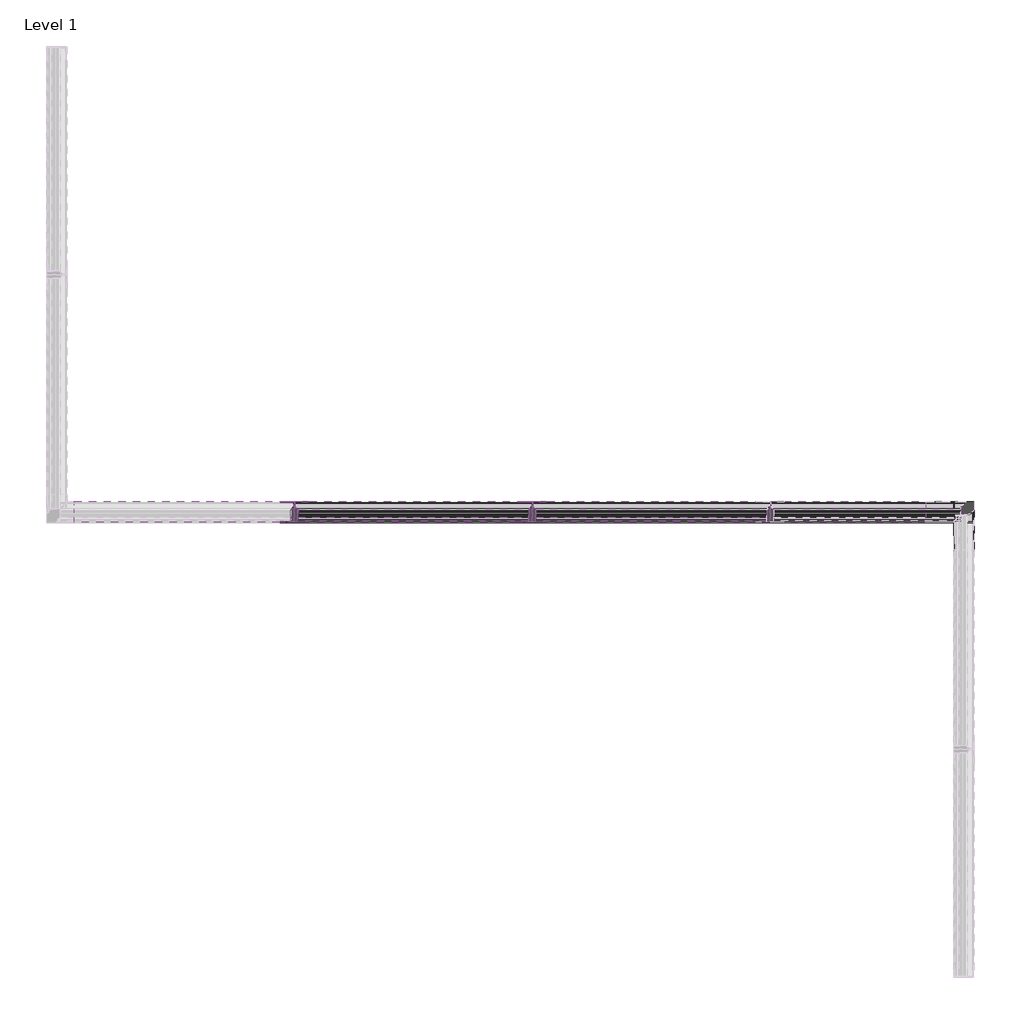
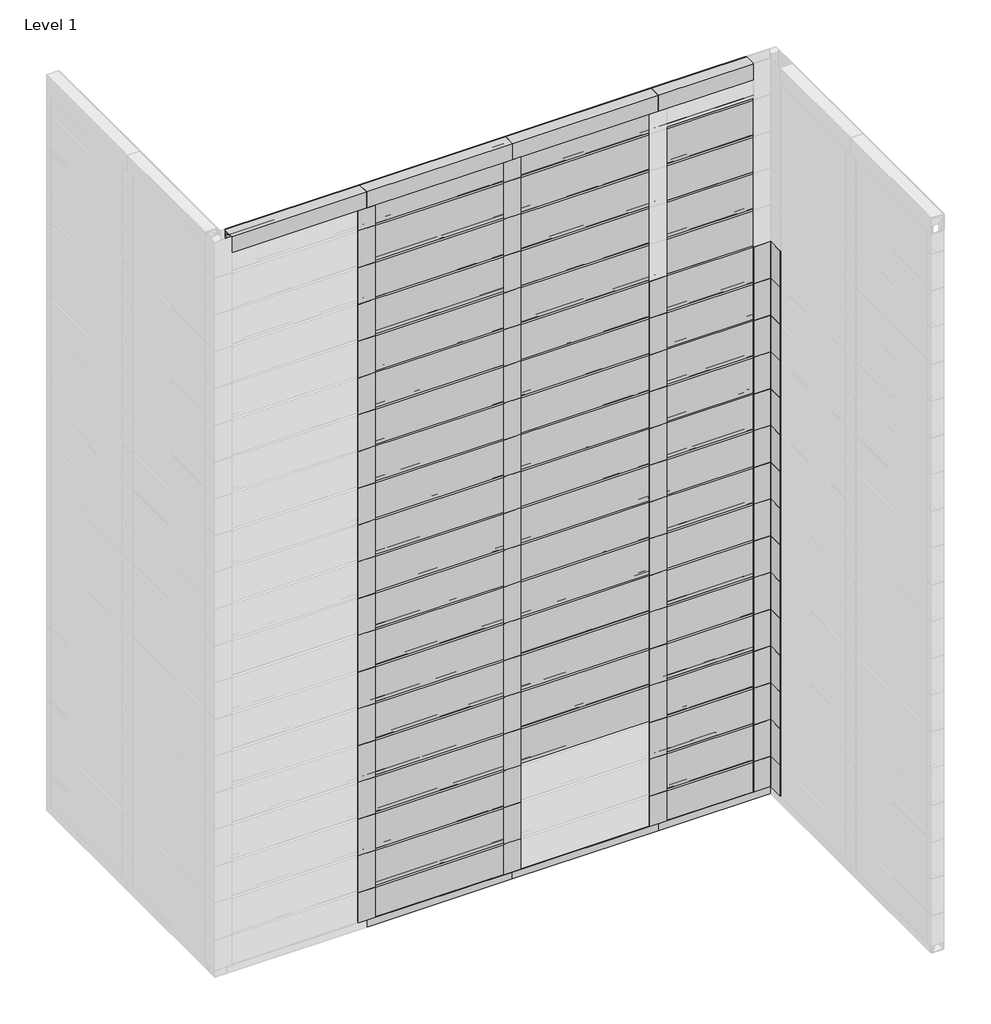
# One storey, part 2 of 6: 77 members, 56 plates.
"""IFC4 building model written with IfcOpenShell, lengths in millimetres."""

from ifc_helpers import new_model, si_unit, origin, place, context, project, spatial, transform, mapped, element, save
from components import rectangular_mullion_fastplank_2_piece_j_trim_top_9bf006b1, rectangular_mullion_fastplank_2_piece_j_trim_top_99cfb705, rectangular_mullion_fastplank_2_piece_j_trim_top_4e6e8a7a, rectangular_mullion_fastplank_2_piece_vertical_trim_b75c35a9, rectangular_mullion_fastplank_2_piece_vertical_trim_79bc82f4, rectangular_mullion_fastplank_2_piece_vertical_trim_40761718, rectangular_mullion_fastplank_inner_corner_trim_left_b16e904a, rectangular_mullion_fastplank_inner_corner_trim_left_bd85acba, rectangular_mullion_fastplank_perforated_starter_j_trim_cb19bc37, rectangular_mullion_fastplank_perforated_starter_j_trim_e011ec98, plate_624bdc6f, plate_c9c5d80b, plate_11fa783c

model = new_model("IFC4")

# Units and contexts
model_context = context("Model", 3, world=origin())
ifc_project = project(units=[si_unit("LENGTHUNIT", "METRE", prefix="MILLI")], contexts=[model_context])

# Site, building, storey
site = spatial("IfcSite", under=ifc_project)
building = spatial("IfcBuilding", under=site)
storey = spatial("IfcBuildingStorey", under=building, Name="Level 1", Elevation=0.0)

# Members
placement = place(None, origin())
rectangular_mullion_fastplank_2_piece_j_trim_top_shape = rectangular_mullion_fastplank_2_piece_j_trim_top_9bf006b1(model_context)
element("IfcMember", 1, ObjectType="Rectangular Mullion : FastPlank_2-Piece-J-Trim-Top", at=placement, inside=storey, context=model_context, shape_type="MappedRepresentation", body=[
    mapped(rectangular_mullion_fastplank_2_piece_j_trim_top_shape, transform((-1623.085698, 1944.9134647, 2032.0), x_axis=(0.0, 0.0, 1.0), y_axis=(0.0, -1.0, 0.0), z_axis=(1.0, 0.0, 0.0))),
])
rectangular_mullion_fastplank_2_piece_j_trim_top_2_shape = rectangular_mullion_fastplank_2_piece_j_trim_top_99cfb705(model_context)
element("IfcMember", 2, ObjectType="Rectangular Mullion : FastPlank_2-Piece-J-Trim-Top", at=placement, inside=storey, context=model_context, shape_type="MappedRepresentation", body=[
    mapped(rectangular_mullion_fastplank_2_piece_j_trim_top_2_shape, transform((-611.6649024, 1944.9134647, 2032.0), x_axis=(0.0, 0.0, 1.0), y_axis=(0.0, -1.0, 0.0), z_axis=(1.0, 0.0, 0.0))),
])
rectangular_mullion_fastplank_2_piece_j_trim_top_3_shape = rectangular_mullion_fastplank_2_piece_j_trim_top_4e6e8a7a(model_context)
element("IfcMember", 3, ObjectType="Rectangular Mullion : FastPlank_2-Piece-J-Trim-Top", at=placement, inside=storey, context=model_context, shape_type="MappedRepresentation", body=[
    mapped(rectangular_mullion_fastplank_2_piece_j_trim_top_3_shape, transform((-861.085698, 1944.9134647, 2032.0), x_axis=(0.0, 0.0, 1.0), y_axis=(0.0, -1.0, 0.0), z_axis=(1.0, 0.0, 0.0))),
])
element("IfcMember", 4, ObjectType="Rectangular Mullion : FastPlank_2-Piece-J-Trim-Top", at=placement, inside=storey, context=model_context, shape_type="MappedRepresentation", body=[
    mapped(rectangular_mullion_fastplank_2_piece_j_trim_top_3_shape, transform((-1242.085698, 1944.9134647, 2032.0), x_axis=(0.0, 0.0, 1.0), y_axis=(0.0, -1.0, 0.0), z_axis=(1.0, 0.0, 0.0))),
])
rectangular_mullion_fastplank_2_piece_vertical_trim_shape = rectangular_mullion_fastplank_2_piece_vertical_trim_b75c35a9(model_context)
element("IfcMember", 5, ObjectType="Rectangular Mullion : FastPlank_2-Piece-Vertical-Trim", at=placement, inside=storey, context=model_context, shape_type="MappedRepresentation", body=[
    mapped(rectangular_mullion_fastplank_2_piece_vertical_trim_shape, transform((-861.085698, 1944.9134647, 102.9000189), x_axis=(1.0, 0.0, 0.0), y_axis=(0.0, -1.0, 0.0), z_axis=(0.0, 0.0, -1.0))),
])
element("IfcMember", 6, ObjectType="Rectangular Mullion : FastPlank_2-Piece-Vertical-Trim", at=placement, inside=storey, context=model_context, shape_type="MappedRepresentation", body=[
    mapped(rectangular_mullion_fastplank_2_piece_vertical_trim_shape, transform((-861.085698, 1944.9134647, 204.5000189), x_axis=(1.0, 0.0, 0.0), y_axis=(0.0, -1.0, 0.0), z_axis=(0.0, 0.0, -1.0))),
])
element("IfcMember", 7, ObjectType="Rectangular Mullion : FastPlank_2-Piece-Vertical-Trim", at=placement, inside=storey, context=model_context, shape_type="MappedRepresentation", body=[
    mapped(rectangular_mullion_fastplank_2_piece_vertical_trim_shape, transform((-861.085698, 1944.9134647, 306.1000189), x_axis=(1.0, 0.0, 0.0), y_axis=(0.0, -1.0, 0.0), z_axis=(0.0, 0.0, -1.0))),
])
element("IfcMember", 8, ObjectType="Rectangular Mullion : FastPlank_2-Piece-Vertical-Trim", at=placement, inside=storey, context=model_context, shape_type="MappedRepresentation", body=[
    mapped(rectangular_mullion_fastplank_2_piece_vertical_trim_shape, transform((-861.085698, 1944.9134647, 407.7000189), x_axis=(1.0, 0.0, 0.0), y_axis=(0.0, -1.0, 0.0), z_axis=(0.0, 0.0, -1.0))),
])
element("IfcMember", 9, ObjectType="Rectangular Mullion : FastPlank_2-Piece-Vertical-Trim", at=placement, inside=storey, context=model_context, shape_type="MappedRepresentation", body=[
    mapped(rectangular_mullion_fastplank_2_piece_vertical_trim_shape, transform((-861.085698, 1944.9134647, 509.3000189), x_axis=(1.0, 0.0, 0.0), y_axis=(0.0, -1.0, 0.0), z_axis=(0.0, 0.0, -1.0))),
])
element("IfcMember", 10, ObjectType="Rectangular Mullion : FastPlank_2-Piece-Vertical-Trim", at=placement, inside=storey, context=model_context, shape_type="MappedRepresentation", body=[
    mapped(rectangular_mullion_fastplank_2_piece_vertical_trim_shape, transform((-861.085698, 1944.9134647, 610.9000189), x_axis=(1.0, 0.0, 0.0), y_axis=(0.0, -1.0, 0.0), z_axis=(0.0, 0.0, -1.0))),
])
element("IfcMember", 11, ObjectType="Rectangular Mullion : FastPlank_2-Piece-Vertical-Trim", at=placement, inside=storey, context=model_context, shape_type="MappedRepresentation", body=[
    mapped(rectangular_mullion_fastplank_2_piece_vertical_trim_shape, transform((-861.085698, 1944.9134647, 712.5000189), x_axis=(1.0, 0.0, 0.0), y_axis=(0.0, -1.0, 0.0), z_axis=(0.0, 0.0, -1.0))),
])
element("IfcMember", 12, ObjectType="Rectangular Mullion : FastPlank_2-Piece-Vertical-Trim", at=placement, inside=storey, context=model_context, shape_type="MappedRepresentation", body=[
    mapped(rectangular_mullion_fastplank_2_piece_vertical_trim_shape, transform((-861.085698, 1944.9134647, 814.1000189), x_axis=(1.0, 0.0, 0.0), y_axis=(0.0, -1.0, 0.0), z_axis=(0.0, 0.0, -1.0))),
])
element("IfcMember", 13, ObjectType="Rectangular Mullion : FastPlank_2-Piece-Vertical-Trim", at=placement, inside=storey, context=model_context, shape_type="MappedRepresentation", body=[
    mapped(rectangular_mullion_fastplank_2_piece_vertical_trim_shape, transform((-861.085698, 1944.9134647, 915.7000189), x_axis=(1.0, 0.0, 0.0), y_axis=(0.0, -1.0, 0.0), z_axis=(0.0, 0.0, -1.0))),
])
element("IfcMember", 14, ObjectType="Rectangular Mullion : FastPlank_2-Piece-Vertical-Trim", at=placement, inside=storey, context=model_context, shape_type="MappedRepresentation", body=[
    mapped(rectangular_mullion_fastplank_2_piece_vertical_trim_shape, transform((-861.085698, 1944.9134647, 1017.3000189), x_axis=(1.0, 0.0, 0.0), y_axis=(0.0, -1.0, 0.0), z_axis=(0.0, 0.0, -1.0))),
])
element("IfcMember", 15, ObjectType="Rectangular Mullion : FastPlank_2-Piece-Vertical-Trim", at=placement, inside=storey, context=model_context, shape_type="MappedRepresentation", body=[
    mapped(rectangular_mullion_fastplank_2_piece_vertical_trim_shape, transform((-861.085698, 1944.9134647, 1118.9000189), x_axis=(1.0, 0.0, 0.0), y_axis=(0.0, -1.0, 0.0), z_axis=(0.0, 0.0, -1.0))),
])
element("IfcMember", 16, ObjectType="Rectangular Mullion : FastPlank_2-Piece-Vertical-Trim", at=placement, inside=storey, context=model_context, shape_type="MappedRepresentation", body=[
    mapped(rectangular_mullion_fastplank_2_piece_vertical_trim_shape, transform((-861.085698, 1944.9134647, 1220.5000189), x_axis=(1.0, 0.0, 0.0), y_axis=(0.0, -1.0, 0.0), z_axis=(0.0, 0.0, -1.0))),
])
element("IfcMember", 17, ObjectType="Rectangular Mullion : FastPlank_2-Piece-Vertical-Trim", at=placement, inside=storey, context=model_context, shape_type="MappedRepresentation", body=[
    mapped(rectangular_mullion_fastplank_2_piece_vertical_trim_shape, transform((-861.085698, 1944.9134647, 1322.1000189), x_axis=(1.0, 0.0, 0.0), y_axis=(0.0, -1.0, 0.0), z_axis=(0.0, 0.0, -1.0))),
])
element("IfcMember", 18, ObjectType="Rectangular Mullion : FastPlank_2-Piece-Vertical-Trim", at=placement, inside=storey, context=model_context, shape_type="MappedRepresentation", body=[
    mapped(rectangular_mullion_fastplank_2_piece_vertical_trim_shape, transform((-861.085698, 1944.9134647, 1423.7000189), x_axis=(1.0, 0.0, 0.0), y_axis=(0.0, -1.0, 0.0), z_axis=(0.0, 0.0, -1.0))),
])
element("IfcMember", 19, ObjectType="Rectangular Mullion : FastPlank_2-Piece-Vertical-Trim", at=placement, inside=storey, context=model_context, shape_type="MappedRepresentation", body=[
    mapped(rectangular_mullion_fastplank_2_piece_vertical_trim_shape, transform((-1242.085698, 1944.9134647, 102.9000189), x_axis=(1.0, 0.0, 0.0), y_axis=(0.0, -1.0, 0.0), z_axis=(0.0, 0.0, -1.0))),
])
element("IfcMember", 20, ObjectType="Rectangular Mullion : FastPlank_2-Piece-Vertical-Trim", at=placement, inside=storey, context=model_context, shape_type="MappedRepresentation", body=[
    mapped(rectangular_mullion_fastplank_2_piece_vertical_trim_shape, transform((-1242.085698, 1944.9134647, 204.5000189), x_axis=(1.0, 0.0, 0.0), y_axis=(0.0, -1.0, 0.0), z_axis=(0.0, 0.0, -1.0))),
])
element("IfcMember", 21, ObjectType="Rectangular Mullion : FastPlank_2-Piece-Vertical-Trim", at=placement, inside=storey, context=model_context, shape_type="MappedRepresentation", body=[
    mapped(rectangular_mullion_fastplank_2_piece_vertical_trim_shape, transform((-1242.085698, 1944.9134647, 306.1000189), x_axis=(1.0, 0.0, 0.0), y_axis=(0.0, -1.0, 0.0), z_axis=(0.0, 0.0, -1.0))),
])
element("IfcMember", 22, ObjectType="Rectangular Mullion : FastPlank_2-Piece-Vertical-Trim", at=placement, inside=storey, context=model_context, shape_type="MappedRepresentation", body=[
    mapped(rectangular_mullion_fastplank_2_piece_vertical_trim_shape, transform((-1242.085698, 1944.9134647, 407.7000189), x_axis=(1.0, 0.0, 0.0), y_axis=(0.0, -1.0, 0.0), z_axis=(0.0, 0.0, -1.0))),
])
element("IfcMember", 23, ObjectType="Rectangular Mullion : FastPlank_2-Piece-Vertical-Trim", at=placement, inside=storey, context=model_context, shape_type="MappedRepresentation", body=[
    mapped(rectangular_mullion_fastplank_2_piece_vertical_trim_shape, transform((-1242.085698, 1944.9134647, 509.3000189), x_axis=(1.0, 0.0, 0.0), y_axis=(0.0, -1.0, 0.0), z_axis=(0.0, 0.0, -1.0))),
])
element("IfcMember", 24, ObjectType="Rectangular Mullion : FastPlank_2-Piece-Vertical-Trim", at=placement, inside=storey, context=model_context, shape_type="MappedRepresentation", body=[
    mapped(rectangular_mullion_fastplank_2_piece_vertical_trim_shape, transform((-1242.085698, 1944.9134647, 610.9000189), x_axis=(1.0, 0.0, 0.0), y_axis=(0.0, -1.0, 0.0), z_axis=(0.0, 0.0, -1.0))),
])
element("IfcMember", 25, ObjectType="Rectangular Mullion : FastPlank_2-Piece-Vertical-Trim", at=placement, inside=storey, context=model_context, shape_type="MappedRepresentation", body=[
    mapped(rectangular_mullion_fastplank_2_piece_vertical_trim_shape, transform((-1242.085698, 1944.9134647, 712.5000189), x_axis=(1.0, 0.0, 0.0), y_axis=(0.0, -1.0, 0.0), z_axis=(0.0, 0.0, -1.0))),
])
element("IfcMember", 26, ObjectType="Rectangular Mullion : FastPlank_2-Piece-Vertical-Trim", at=placement, inside=storey, context=model_context, shape_type="MappedRepresentation", body=[
    mapped(rectangular_mullion_fastplank_2_piece_vertical_trim_shape, transform((-1242.085698, 1944.9134647, 814.1000189), x_axis=(1.0, 0.0, 0.0), y_axis=(0.0, -1.0, 0.0), z_axis=(0.0, 0.0, -1.0))),
])
element("IfcMember", 27, ObjectType="Rectangular Mullion : FastPlank_2-Piece-Vertical-Trim", at=placement, inside=storey, context=model_context, shape_type="MappedRepresentation", body=[
    mapped(rectangular_mullion_fastplank_2_piece_vertical_trim_shape, transform((-1242.085698, 1944.9134647, 915.7000189), x_axis=(1.0, 0.0, 0.0), y_axis=(0.0, -1.0, 0.0), z_axis=(0.0, 0.0, -1.0))),
])
element("IfcMember", 28, ObjectType="Rectangular Mullion : FastPlank_2-Piece-Vertical-Trim", at=placement, inside=storey, context=model_context, shape_type="MappedRepresentation", body=[
    mapped(rectangular_mullion_fastplank_2_piece_vertical_trim_shape, transform((-1242.085698, 1944.9134647, 1017.3000189), x_axis=(1.0, 0.0, 0.0), y_axis=(0.0, -1.0, 0.0), z_axis=(0.0, 0.0, -1.0))),
])
element("IfcMember", 29, ObjectType="Rectangular Mullion : FastPlank_2-Piece-Vertical-Trim", at=placement, inside=storey, context=model_context, shape_type="MappedRepresentation", body=[
    mapped(rectangular_mullion_fastplank_2_piece_vertical_trim_shape, transform((-1242.085698, 1944.9134647, 1118.9000189), x_axis=(1.0, 0.0, 0.0), y_axis=(0.0, -1.0, 0.0), z_axis=(0.0, 0.0, -1.0))),
])
element("IfcMember", 30, ObjectType="Rectangular Mullion : FastPlank_2-Piece-Vertical-Trim", at=placement, inside=storey, context=model_context, shape_type="MappedRepresentation", body=[
    mapped(rectangular_mullion_fastplank_2_piece_vertical_trim_shape, transform((-1242.085698, 1944.9134647, 1220.5000189), x_axis=(1.0, 0.0, 0.0), y_axis=(0.0, -1.0, 0.0), z_axis=(0.0, 0.0, -1.0))),
])
element("IfcMember", 31, ObjectType="Rectangular Mullion : FastPlank_2-Piece-Vertical-Trim", at=placement, inside=storey, context=model_context, shape_type="MappedRepresentation", body=[
    mapped(rectangular_mullion_fastplank_2_piece_vertical_trim_shape, transform((-1242.085698, 1944.9134647, 1322.1000189), x_axis=(1.0, 0.0, 0.0), y_axis=(0.0, -1.0, 0.0), z_axis=(0.0, 0.0, -1.0))),
])
element("IfcMember", 32, ObjectType="Rectangular Mullion : FastPlank_2-Piece-Vertical-Trim", at=placement, inside=storey, context=model_context, shape_type="MappedRepresentation", body=[
    mapped(rectangular_mullion_fastplank_2_piece_vertical_trim_shape, transform((-1242.085698, 1944.9134647, 1423.7000189), x_axis=(1.0, 0.0, 0.0), y_axis=(0.0, -1.0, 0.0), z_axis=(0.0, 0.0, -1.0))),
])
element("IfcMember", 33, ObjectType="Rectangular Mullion : FastPlank_2-Piece-Vertical-Trim", at=placement, inside=storey, context=model_context, shape_type="MappedRepresentation", body=[
    mapped(rectangular_mullion_fastplank_2_piece_vertical_trim_shape, transform((-1242.085698, 1944.9134647, 1525.3000189), x_axis=(1.0, 0.0, 0.0), y_axis=(0.0, -1.0, 0.0), z_axis=(0.0, 0.0, -1.0))),
])
element("IfcMember", 34, ObjectType="Rectangular Mullion : FastPlank_2-Piece-Vertical-Trim", at=placement, inside=storey, context=model_context, shape_type="MappedRepresentation", body=[
    mapped(rectangular_mullion_fastplank_2_piece_vertical_trim_shape, transform((-1242.085698, 1944.9134647, 1626.9000189), x_axis=(1.0, 0.0, 0.0), y_axis=(0.0, -1.0, 0.0), z_axis=(0.0, 0.0, -1.0))),
])
element("IfcMember", 35, ObjectType="Rectangular Mullion : FastPlank_2-Piece-Vertical-Trim", at=placement, inside=storey, context=model_context, shape_type="MappedRepresentation", body=[
    mapped(rectangular_mullion_fastplank_2_piece_vertical_trim_shape, transform((-1242.085698, 1944.9134647, 1728.5000189), x_axis=(1.0, 0.0, 0.0), y_axis=(0.0, -1.0, 0.0), z_axis=(0.0, 0.0, -1.0))),
])
element("IfcMember", 36, ObjectType="Rectangular Mullion : FastPlank_2-Piece-Vertical-Trim", at=placement, inside=storey, context=model_context, shape_type="MappedRepresentation", body=[
    mapped(rectangular_mullion_fastplank_2_piece_vertical_trim_shape, transform((-1242.085698, 1944.9134647, 1830.1000189), x_axis=(1.0, 0.0, 0.0), y_axis=(0.0, -1.0, 0.0), z_axis=(0.0, 0.0, -1.0))),
])
element("IfcMember", 37, ObjectType="Rectangular Mullion : FastPlank_2-Piece-Vertical-Trim", at=placement, inside=storey, context=model_context, shape_type="MappedRepresentation", body=[
    mapped(rectangular_mullion_fastplank_2_piece_vertical_trim_shape, transform((-1623.085698, 1944.9134647, 102.9000189), x_axis=(1.0, 0.0, 0.0), y_axis=(0.0, -1.0, 0.0), z_axis=(0.0, 0.0, -1.0))),
])
element("IfcMember", 38, ObjectType="Rectangular Mullion : FastPlank_2-Piece-Vertical-Trim", at=placement, inside=storey, context=model_context, shape_type="MappedRepresentation", body=[
    mapped(rectangular_mullion_fastplank_2_piece_vertical_trim_shape, transform((-1623.085698, 1944.9134647, 204.5000189), x_axis=(1.0, 0.0, 0.0), y_axis=(0.0, -1.0, 0.0), z_axis=(0.0, 0.0, -1.0))),
])
element("IfcMember", 39, ObjectType="Rectangular Mullion : FastPlank_2-Piece-Vertical-Trim", at=placement, inside=storey, context=model_context, shape_type="MappedRepresentation", body=[
    mapped(rectangular_mullion_fastplank_2_piece_vertical_trim_shape, transform((-1623.085698, 1944.9134647, 306.1000189), x_axis=(1.0, 0.0, 0.0), y_axis=(0.0, -1.0, 0.0), z_axis=(0.0, 0.0, -1.0))),
])
element("IfcMember", 40, ObjectType="Rectangular Mullion : FastPlank_2-Piece-Vertical-Trim", at=placement, inside=storey, context=model_context, shape_type="MappedRepresentation", body=[
    mapped(rectangular_mullion_fastplank_2_piece_vertical_trim_shape, transform((-1623.085698, 1944.9134647, 407.7000189), x_axis=(1.0, 0.0, 0.0), y_axis=(0.0, -1.0, 0.0), z_axis=(0.0, 0.0, -1.0))),
])
element("IfcMember", 41, ObjectType="Rectangular Mullion : FastPlank_2-Piece-Vertical-Trim", at=placement, inside=storey, context=model_context, shape_type="MappedRepresentation", body=[
    mapped(rectangular_mullion_fastplank_2_piece_vertical_trim_shape, transform((-1623.085698, 1944.9134647, 509.3000189), x_axis=(1.0, 0.0, 0.0), y_axis=(0.0, -1.0, 0.0), z_axis=(0.0, 0.0, -1.0))),
])
element("IfcMember", 42, ObjectType="Rectangular Mullion : FastPlank_2-Piece-Vertical-Trim", at=placement, inside=storey, context=model_context, shape_type="MappedRepresentation", body=[
    mapped(rectangular_mullion_fastplank_2_piece_vertical_trim_shape, transform((-1623.085698, 1944.9134647, 610.9000189), x_axis=(1.0, 0.0, 0.0), y_axis=(0.0, -1.0, 0.0), z_axis=(0.0, 0.0, -1.0))),
])
element("IfcMember", 43, ObjectType="Rectangular Mullion : FastPlank_2-Piece-Vertical-Trim", at=placement, inside=storey, context=model_context, shape_type="MappedRepresentation", body=[
    mapped(rectangular_mullion_fastplank_2_piece_vertical_trim_shape, transform((-1623.085698, 1944.9134647, 712.5000189), x_axis=(1.0, 0.0, 0.0), y_axis=(0.0, -1.0, 0.0), z_axis=(0.0, 0.0, -1.0))),
])
element("IfcMember", 44, ObjectType="Rectangular Mullion : FastPlank_2-Piece-Vertical-Trim", at=placement, inside=storey, context=model_context, shape_type="MappedRepresentation", body=[
    mapped(rectangular_mullion_fastplank_2_piece_vertical_trim_shape, transform((-1623.085698, 1944.9134647, 814.1000189), x_axis=(1.0, 0.0, 0.0), y_axis=(0.0, -1.0, 0.0), z_axis=(0.0, 0.0, -1.0))),
])
element("IfcMember", 45, ObjectType="Rectangular Mullion : FastPlank_2-Piece-Vertical-Trim", at=placement, inside=storey, context=model_context, shape_type="MappedRepresentation", body=[
    mapped(rectangular_mullion_fastplank_2_piece_vertical_trim_shape, transform((-1623.085698, 1944.9134647, 915.7000189), x_axis=(1.0, 0.0, 0.0), y_axis=(0.0, -1.0, 0.0), z_axis=(0.0, 0.0, -1.0))),
])
element("IfcMember", 46, ObjectType="Rectangular Mullion : FastPlank_2-Piece-Vertical-Trim", at=placement, inside=storey, context=model_context, shape_type="MappedRepresentation", body=[
    mapped(rectangular_mullion_fastplank_2_piece_vertical_trim_shape, transform((-1623.085698, 1944.9134647, 1017.3000189), x_axis=(1.0, 0.0, 0.0), y_axis=(0.0, -1.0, 0.0), z_axis=(0.0, 0.0, -1.0))),
])
element("IfcMember", 47, ObjectType="Rectangular Mullion : FastPlank_2-Piece-Vertical-Trim", at=placement, inside=storey, context=model_context, shape_type="MappedRepresentation", body=[
    mapped(rectangular_mullion_fastplank_2_piece_vertical_trim_shape, transform((-1623.085698, 1944.9134647, 1118.9000189), x_axis=(1.0, 0.0, 0.0), y_axis=(0.0, -1.0, 0.0), z_axis=(0.0, 0.0, -1.0))),
])
element("IfcMember", 48, ObjectType="Rectangular Mullion : FastPlank_2-Piece-Vertical-Trim", at=placement, inside=storey, context=model_context, shape_type="MappedRepresentation", body=[
    mapped(rectangular_mullion_fastplank_2_piece_vertical_trim_shape, transform((-1623.085698, 1944.9134647, 1220.5000189), x_axis=(1.0, 0.0, 0.0), y_axis=(0.0, -1.0, 0.0), z_axis=(0.0, 0.0, -1.0))),
])
element("IfcMember", 49, ObjectType="Rectangular Mullion : FastPlank_2-Piece-Vertical-Trim", at=placement, inside=storey, context=model_context, shape_type="MappedRepresentation", body=[
    mapped(rectangular_mullion_fastplank_2_piece_vertical_trim_shape, transform((-1623.085698, 1944.9134647, 1322.1000189), x_axis=(1.0, 0.0, 0.0), y_axis=(0.0, -1.0, 0.0), z_axis=(0.0, 0.0, -1.0))),
])
element("IfcMember", 50, ObjectType="Rectangular Mullion : FastPlank_2-Piece-Vertical-Trim", at=placement, inside=storey, context=model_context, shape_type="MappedRepresentation", body=[
    mapped(rectangular_mullion_fastplank_2_piece_vertical_trim_shape, transform((-1623.085698, 1944.9134647, 1423.7000189), x_axis=(1.0, 0.0, 0.0), y_axis=(0.0, -1.0, 0.0), z_axis=(0.0, 0.0, -1.0))),
])
element("IfcMember", 51, ObjectType="Rectangular Mullion : FastPlank_2-Piece-Vertical-Trim", at=placement, inside=storey, context=model_context, shape_type="MappedRepresentation", body=[
    mapped(rectangular_mullion_fastplank_2_piece_vertical_trim_shape, transform((-1623.085698, 1944.9134647, 1525.3000189), x_axis=(1.0, 0.0, 0.0), y_axis=(0.0, -1.0, 0.0), z_axis=(0.0, 0.0, -1.0))),
])
element("IfcMember", 52, ObjectType="Rectangular Mullion : FastPlank_2-Piece-Vertical-Trim", at=placement, inside=storey, context=model_context, shape_type="MappedRepresentation", body=[
    mapped(rectangular_mullion_fastplank_2_piece_vertical_trim_shape, transform((-1623.085698, 1944.9134647, 1626.9000189), x_axis=(1.0, 0.0, 0.0), y_axis=(0.0, -1.0, 0.0), z_axis=(0.0, 0.0, -1.0))),
])
element("IfcMember", 53, ObjectType="Rectangular Mullion : FastPlank_2-Piece-Vertical-Trim", at=placement, inside=storey, context=model_context, shape_type="MappedRepresentation", body=[
    mapped(rectangular_mullion_fastplank_2_piece_vertical_trim_shape, transform((-1623.085698, 1944.9134647, 1728.5000189), x_axis=(1.0, 0.0, 0.0), y_axis=(0.0, -1.0, 0.0), z_axis=(0.0, 0.0, -1.0))),
])
element("IfcMember", 54, ObjectType="Rectangular Mullion : FastPlank_2-Piece-Vertical-Trim", at=placement, inside=storey, context=model_context, shape_type="MappedRepresentation", body=[
    mapped(rectangular_mullion_fastplank_2_piece_vertical_trim_shape, transform((-1623.085698, 1944.9134647, 1830.1000189), x_axis=(1.0, 0.0, 0.0), y_axis=(0.0, -1.0, 0.0), z_axis=(0.0, 0.0, -1.0))),
])
rectangular_mullion_fastplank_2_piece_vertical_trim_2_shape = rectangular_mullion_fastplank_2_piece_vertical_trim_79bc82f4(model_context)
element("IfcMember", 55, ObjectType="Rectangular Mullion : FastPlank_2-Piece-Vertical-Trim", at=placement, inside=storey, context=model_context, shape_type="MappedRepresentation", body=[
    mapped(rectangular_mullion_fastplank_2_piece_vertical_trim_2_shape, transform((-1242.085698, 1944.9134647, 1931.7000189), x_axis=(1.0, 0.0, 0.0), y_axis=(0.0, -1.0, 0.0), z_axis=(0.0, 0.0, -1.0))),
])
element("IfcMember", 56, ObjectType="Rectangular Mullion : FastPlank_2-Piece-Vertical-Trim", at=placement, inside=storey, context=model_context, shape_type="MappedRepresentation", body=[
    mapped(rectangular_mullion_fastplank_2_piece_vertical_trim_2_shape, transform((-1623.085698, 1944.9134647, 1931.7000189), x_axis=(1.0, 0.0, 0.0), y_axis=(0.0, -1.0, 0.0), z_axis=(0.0, 0.0, -1.0))),
])
rectangular_mullion_fastplank_2_piece_vertical_trim_3_shape = rectangular_mullion_fastplank_2_piece_vertical_trim_40761718(model_context)
element("IfcMember", 57, ObjectType="Rectangular Mullion : FastPlank_2-Piece-Vertical-Trim", at=placement, inside=storey, context=model_context, shape_type="MappedRepresentation", body=[
    mapped(rectangular_mullion_fastplank_2_piece_vertical_trim_3_shape, transform((-861.085698, 1944.9134647, 19.05), x_axis=(1.0, 0.0, 0.0), y_axis=(0.0, -1.0, 0.0), z_axis=(0.0, 0.0, -1.0))),
])
element("IfcMember", 58, ObjectType="Rectangular Mullion : FastPlank_2-Piece-Vertical-Trim", at=placement, inside=storey, context=model_context, shape_type="MappedRepresentation", body=[
    mapped(rectangular_mullion_fastplank_2_piece_vertical_trim_3_shape, transform((-1242.085698, 1944.9134647, 19.05), x_axis=(1.0, 0.0, 0.0), y_axis=(0.0, -1.0, 0.0), z_axis=(0.0, 0.0, -1.0))),
])
element("IfcMember", 59, ObjectType="Rectangular Mullion : FastPlank_2-Piece-Vertical-Trim", at=placement, inside=storey, context=model_context, shape_type="MappedRepresentation", body=[
    mapped(rectangular_mullion_fastplank_2_piece_vertical_trim_3_shape, transform((-1623.085698, 1944.9134647, 19.05), x_axis=(1.0, 0.0, 0.0), y_axis=(0.0, -1.0, 0.0), z_axis=(0.0, 0.0, -1.0))),
])
rectangular_mullion_fastplank_inner_corner_trim_left_shape = rectangular_mullion_fastplank_inner_corner_trim_left_b16e904a(model_context)
element("IfcMember", 60, ObjectType="Rectangular Mullion : FastPlank_Inner-Corner-Trim-Right", at=placement, inside=storey, context=model_context, shape_type="MappedRepresentation", body=[
    mapped(rectangular_mullion_fastplank_inner_corner_trim_left_shape, transform((-533.9650578, 1944.9134647, 102.9000189), x_axis=(1.0, 0.0, 0.0), y_axis=(0.0, -1.0, 0.0), z_axis=(0.0, 0.0, -1.0))),
])
element("IfcMember", 61, ObjectType="Rectangular Mullion : FastPlank_Inner-Corner-Trim-Right", at=placement, inside=storey, context=model_context, shape_type="MappedRepresentation", body=[
    mapped(rectangular_mullion_fastplank_inner_corner_trim_left_shape, transform((-533.9650578, 1944.9134647, 204.5000189), x_axis=(1.0, 0.0, 0.0), y_axis=(0.0, -1.0, 0.0), z_axis=(0.0, 0.0, -1.0))),
])
element("IfcMember", 62, ObjectType="Rectangular Mullion : FastPlank_Inner-Corner-Trim-Right", at=placement, inside=storey, context=model_context, shape_type="MappedRepresentation", body=[
    mapped(rectangular_mullion_fastplank_inner_corner_trim_left_shape, transform((-533.9650578, 1944.9134647, 306.1000189), x_axis=(1.0, 0.0, 0.0), y_axis=(0.0, -1.0, 0.0), z_axis=(0.0, 0.0, -1.0))),
])
element("IfcMember", 63, ObjectType="Rectangular Mullion : FastPlank_Inner-Corner-Trim-Right", at=placement, inside=storey, context=model_context, shape_type="MappedRepresentation", body=[
    mapped(rectangular_mullion_fastplank_inner_corner_trim_left_shape, transform((-533.9650578, 1944.9134647, 407.7000189), x_axis=(1.0, 0.0, 0.0), y_axis=(0.0, -1.0, 0.0), z_axis=(0.0, 0.0, -1.0))),
])
element("IfcMember", 64, ObjectType="Rectangular Mullion : FastPlank_Inner-Corner-Trim-Right", at=placement, inside=storey, context=model_context, shape_type="MappedRepresentation", body=[
    mapped(rectangular_mullion_fastplank_inner_corner_trim_left_shape, transform((-533.9650578, 1944.9134647, 509.3000189), x_axis=(1.0, 0.0, 0.0), y_axis=(0.0, -1.0, 0.0), z_axis=(0.0, 0.0, -1.0))),
])
element("IfcMember", 65, ObjectType="Rectangular Mullion : FastPlank_Inner-Corner-Trim-Right", at=placement, inside=storey, context=model_context, shape_type="MappedRepresentation", body=[
    mapped(rectangular_mullion_fastplank_inner_corner_trim_left_shape, transform((-533.9650578, 1944.9134647, 610.9000189), x_axis=(1.0, 0.0, 0.0), y_axis=(0.0, -1.0, 0.0), z_axis=(0.0, 0.0, -1.0))),
])
element("IfcMember", 66, ObjectType="Rectangular Mullion : FastPlank_Inner-Corner-Trim-Right", at=placement, inside=storey, context=model_context, shape_type="MappedRepresentation", body=[
    mapped(rectangular_mullion_fastplank_inner_corner_trim_left_shape, transform((-533.9650578, 1944.9134647, 712.5000189), x_axis=(1.0, 0.0, 0.0), y_axis=(0.0, -1.0, 0.0), z_axis=(0.0, 0.0, -1.0))),
])
element("IfcMember", 67, ObjectType="Rectangular Mullion : FastPlank_Inner-Corner-Trim-Right", at=placement, inside=storey, context=model_context, shape_type="MappedRepresentation", body=[
    mapped(rectangular_mullion_fastplank_inner_corner_trim_left_shape, transform((-533.9650578, 1944.9134647, 814.1000189), x_axis=(1.0, 0.0, 0.0), y_axis=(0.0, -1.0, 0.0), z_axis=(0.0, 0.0, -1.0))),
])
element("IfcMember", 68, ObjectType="Rectangular Mullion : FastPlank_Inner-Corner-Trim-Right", at=placement, inside=storey, context=model_context, shape_type="MappedRepresentation", body=[
    mapped(rectangular_mullion_fastplank_inner_corner_trim_left_shape, transform((-533.9650578, 1944.9134647, 915.7000189), x_axis=(1.0, 0.0, 0.0), y_axis=(0.0, -1.0, 0.0), z_axis=(0.0, 0.0, -1.0))),
])
element("IfcMember", 69, ObjectType="Rectangular Mullion : FastPlank_Inner-Corner-Trim-Right", at=placement, inside=storey, context=model_context, shape_type="MappedRepresentation", body=[
    mapped(rectangular_mullion_fastplank_inner_corner_trim_left_shape, transform((-533.9650578, 1944.9134647, 1017.3000189), x_axis=(1.0, 0.0, 0.0), y_axis=(0.0, -1.0, 0.0), z_axis=(0.0, 0.0, -1.0))),
])
element("IfcMember", 70, ObjectType="Rectangular Mullion : FastPlank_Inner-Corner-Trim-Right", at=placement, inside=storey, context=model_context, shape_type="MappedRepresentation", body=[
    mapped(rectangular_mullion_fastplank_inner_corner_trim_left_shape, transform((-533.9650578, 1944.9134647, 1118.9000189), x_axis=(1.0, 0.0, 0.0), y_axis=(0.0, -1.0, 0.0), z_axis=(0.0, 0.0, -1.0))),
])
element("IfcMember", 71, ObjectType="Rectangular Mullion : FastPlank_Inner-Corner-Trim-Right", at=placement, inside=storey, context=model_context, shape_type="MappedRepresentation", body=[
    mapped(rectangular_mullion_fastplank_inner_corner_trim_left_shape, transform((-533.9650578, 1944.9134647, 1220.5000189), x_axis=(1.0, 0.0, 0.0), y_axis=(0.0, -1.0, 0.0), z_axis=(0.0, 0.0, -1.0))),
])
element("IfcMember", 72, ObjectType="Rectangular Mullion : FastPlank_Inner-Corner-Trim-Right", at=placement, inside=storey, context=model_context, shape_type="MappedRepresentation", body=[
    mapped(rectangular_mullion_fastplank_inner_corner_trim_left_shape, transform((-533.9650578, 1944.9134647, 1322.1000189), x_axis=(1.0, 0.0, 0.0), y_axis=(0.0, -1.0, 0.0), z_axis=(0.0, 0.0, -1.0))),
])
element("IfcMember", 73, ObjectType="Rectangular Mullion : FastPlank_Inner-Corner-Trim-Right", at=placement, inside=storey, context=model_context, shape_type="MappedRepresentation", body=[
    mapped(rectangular_mullion_fastplank_inner_corner_trim_left_shape, transform((-533.9650578, 1944.9134647, 1423.7000189), x_axis=(1.0, 0.0, 0.0), y_axis=(0.0, -1.0, 0.0), z_axis=(0.0, 0.0, -1.0))),
])
rectangular_mullion_fastplank_inner_corner_trim_left_2_shape = rectangular_mullion_fastplank_inner_corner_trim_left_bd85acba(model_context)
element("IfcMember", 74, ObjectType="Rectangular Mullion : FastPlank_Inner-Corner-Trim-Right", at=placement, inside=storey, context=model_context, shape_type="MappedRepresentation", body=[
    mapped(rectangular_mullion_fastplank_inner_corner_trim_left_2_shape, transform((-533.9650578, 1944.9134647, 19.05), x_axis=(1.0, 0.0, 0.0), y_axis=(0.0, -1.0, 0.0), z_axis=(0.0, 0.0, -1.0))),
])
rectangular_mullion_fastplank_perforated_starter_j_trim_shape = rectangular_mullion_fastplank_perforated_starter_j_trim_cb19bc37(model_context)
element("IfcMember", 75, ObjectType="Rectangular Mullion : FastPlank_Perforated-Starter-J-Trim", at=placement, inside=storey, context=model_context, shape_type="MappedRepresentation", body=[
    mapped(rectangular_mullion_fastplank_perforated_starter_j_trim_shape, transform((-861.085698, 1944.9134647, 0.0), x_axis=(0.0, 0.0, -1.0), y_axis=(0.0, -1.0, 0.0), z_axis=(-1.0, 0.0, 0.0))),
])
rectangular_mullion_fastplank_perforated_starter_j_trim_2_shape = rectangular_mullion_fastplank_perforated_starter_j_trim_e011ec98(model_context)
element("IfcMember", 76, ObjectType="Rectangular Mullion : FastPlank_Perforated-Starter-J-Trim", at=placement, inside=storey, context=model_context, shape_type="MappedRepresentation", body=[
    mapped(rectangular_mullion_fastplank_perforated_starter_j_trim_2_shape, transform((-1242.085698, 1944.9134647, 0.0), x_axis=(0.0, 0.0, -1.0), y_axis=(0.0, -1.0, 0.0), z_axis=(-1.0, 0.0, 0.0))),
])
element("IfcMember", 77, ObjectType="Rectangular Mullion : FastPlank_Perforated-Starter-J-Trim", at=placement, inside=storey, context=model_context, shape_type="MappedRepresentation", body=[
    mapped(rectangular_mullion_fastplank_perforated_starter_j_trim_2_shape, transform((-1623.085698, 1944.9134647, 0.0), x_axis=(0.0, 0.0, -1.0), y_axis=(0.0, -1.0, 0.0), z_axis=(-1.0, 0.0, 0.0))),
])

# Plates
plate_shape = plate_624bdc6f(model_context)
element("IfcPlate", 78, ObjectType="FastPlank_P44V-V-Notch-4″-Plank-Horizontal : P44V-V-Notch-4″-Plank-Horizontal", at=placement, inside=storey, context=model_context, shape_type="MappedRepresentation", body=[
    mapped(plate_shape, transform((-1051.585698, 1944.9134647, 306.1000189), x_axis=(1.0, 0.0, 0.0), y_axis=(0.0, 1.0, 0.0), z_axis=(0.0, 0.0, 1.0))),
])
element("IfcPlate", 79, ObjectType="FastPlank_P44V-V-Notch-4″-Plank-Horizontal : P44V-V-Notch-4″-Plank-Horizontal", at=placement, inside=storey, context=model_context, shape_type="MappedRepresentation", body=[
    mapped(plate_shape, transform((-1051.585698, 1944.9134647, 407.7000189), x_axis=(1.0, 0.0, 0.0), y_axis=(0.0, 1.0, 0.0), z_axis=(0.0, 0.0, 1.0))),
])
element("IfcPlate", 80, ObjectType="FastPlank_P44V-V-Notch-4″-Plank-Horizontal : P44V-V-Notch-4″-Plank-Horizontal", at=placement, inside=storey, context=model_context, shape_type="MappedRepresentation", body=[
    mapped(plate_shape, transform((-1051.585698, 1944.9134647, 509.3000189), x_axis=(1.0, 0.0, 0.0), y_axis=(0.0, 1.0, 0.0), z_axis=(0.0, 0.0, 1.0))),
])
element("IfcPlate", 81, ObjectType="FastPlank_P44V-V-Notch-4″-Plank-Horizontal : P44V-V-Notch-4″-Plank-Horizontal", at=placement, inside=storey, context=model_context, shape_type="MappedRepresentation", body=[
    mapped(plate_shape, transform((-1051.585698, 1944.9134647, 610.9000189), x_axis=(1.0, 0.0, 0.0), y_axis=(0.0, 1.0, 0.0), z_axis=(0.0, 0.0, 1.0))),
])
element("IfcPlate", 82, ObjectType="FastPlank_P44V-V-Notch-4″-Plank-Horizontal : P44V-V-Notch-4″-Plank-Horizontal", at=placement, inside=storey, context=model_context, shape_type="MappedRepresentation", body=[
    mapped(plate_shape, transform((-1051.585698, 1944.9134647, 712.5000189), x_axis=(1.0, 0.0, 0.0), y_axis=(0.0, 1.0, 0.0), z_axis=(0.0, 0.0, 1.0))),
])
element("IfcPlate", 83, ObjectType="FastPlank_P44V-V-Notch-4″-Plank-Horizontal : P44V-V-Notch-4″-Plank-Horizontal", at=placement, inside=storey, context=model_context, shape_type="MappedRepresentation", body=[
    mapped(plate_shape, transform((-1051.585698, 1944.9134647, 814.1000189), x_axis=(1.0, 0.0, 0.0), y_axis=(0.0, 1.0, 0.0), z_axis=(0.0, 0.0, 1.0))),
])
element("IfcPlate", 84, ObjectType="FastPlank_P44V-V-Notch-4″-Plank-Horizontal : P44V-V-Notch-4″-Plank-Horizontal", at=placement, inside=storey, context=model_context, shape_type="MappedRepresentation", body=[
    mapped(plate_shape, transform((-1051.585698, 1944.9134647, 915.7000189), x_axis=(1.0, 0.0, 0.0), y_axis=(0.0, 1.0, 0.0), z_axis=(0.0, 0.0, 1.0))),
])
element("IfcPlate", 85, ObjectType="FastPlank_P44V-V-Notch-4″-Plank-Horizontal : P44V-V-Notch-4″-Plank-Horizontal", at=placement, inside=storey, context=model_context, shape_type="MappedRepresentation", body=[
    mapped(plate_shape, transform((-1051.585698, 1944.9134647, 1017.3000189), x_axis=(1.0, 0.0, 0.0), y_axis=(0.0, 1.0, 0.0), z_axis=(0.0, 0.0, 1.0))),
])
element("IfcPlate", 86, ObjectType="FastPlank_P44V-V-Notch-4″-Plank-Horizontal : P44V-V-Notch-4″-Plank-Horizontal", at=placement, inside=storey, context=model_context, shape_type="MappedRepresentation", body=[
    mapped(plate_shape, transform((-1051.585698, 1944.9134647, 1118.9000189), x_axis=(1.0, 0.0, 0.0), y_axis=(0.0, 1.0, 0.0), z_axis=(0.0, 0.0, 1.0))),
])
element("IfcPlate", 87, ObjectType="FastPlank_P44V-V-Notch-4″-Plank-Horizontal : P44V-V-Notch-4″-Plank-Horizontal", at=placement, inside=storey, context=model_context, shape_type="MappedRepresentation", body=[
    mapped(plate_shape, transform((-1051.585698, 1944.9134647, 1220.5000189), x_axis=(1.0, 0.0, 0.0), y_axis=(0.0, 1.0, 0.0), z_axis=(0.0, 0.0, 1.0))),
])
element("IfcPlate", 88, ObjectType="FastPlank_P44V-V-Notch-4″-Plank-Horizontal : P44V-V-Notch-4″-Plank-Horizontal", at=placement, inside=storey, context=model_context, shape_type="MappedRepresentation", body=[
    mapped(plate_shape, transform((-1051.585698, 1944.9134647, 1322.1000189), x_axis=(1.0, 0.0, 0.0), y_axis=(0.0, 1.0, 0.0), z_axis=(0.0, 0.0, 1.0))),
])
element("IfcPlate", 89, ObjectType="FastPlank_P44V-V-Notch-4″-Plank-Horizontal : P44V-V-Notch-4″-Plank-Horizontal", at=placement, inside=storey, context=model_context, shape_type="MappedRepresentation", body=[
    mapped(plate_shape, transform((-1051.585698, 1944.9134647, 1423.7000189), x_axis=(1.0, 0.0, 0.0), y_axis=(0.0, 1.0, 0.0), z_axis=(0.0, 0.0, 1.0))),
])
element("IfcPlate", 90, ObjectType="FastPlank_P44V-V-Notch-4″-Plank-Horizontal : P44V-V-Notch-4″-Plank-Horizontal", at=placement, inside=storey, context=model_context, shape_type="MappedRepresentation", body=[
    mapped(plate_shape, transform((-1051.585698, 1944.9134647, 1525.3000189), x_axis=(1.0, 0.0, 0.0), y_axis=(0.0, 1.0, 0.0), z_axis=(0.0, 0.0, 1.0))),
])
element("IfcPlate", 91, ObjectType="FastPlank_P44V-V-Notch-4″-Plank-Horizontal : P44V-V-Notch-4″-Plank-Horizontal", at=placement, inside=storey, context=model_context, shape_type="MappedRepresentation", body=[
    mapped(plate_shape, transform((-1051.585698, 1944.9134647, 1626.9000189), x_axis=(1.0, 0.0, 0.0), y_axis=(0.0, 1.0, 0.0), z_axis=(0.0, 0.0, 1.0))),
])
element("IfcPlate", 92, ObjectType="FastPlank_P44V-V-Notch-4″-Plank-Horizontal : P44V-V-Notch-4″-Plank-Horizontal", at=placement, inside=storey, context=model_context, shape_type="MappedRepresentation", body=[
    mapped(plate_shape, transform((-1051.585698, 1944.9134647, 1728.5000189), x_axis=(1.0, 0.0, 0.0), y_axis=(0.0, 1.0, 0.0), z_axis=(0.0, 0.0, 1.0))),
])
element("IfcPlate", 93, ObjectType="FastPlank_P44V-V-Notch-4″-Plank-Horizontal : P44V-V-Notch-4″-Plank-Horizontal", at=placement, inside=storey, context=model_context, shape_type="MappedRepresentation", body=[
    mapped(plate_shape, transform((-1051.585698, 1944.9134647, 1830.1000189), x_axis=(1.0, 0.0, 0.0), y_axis=(0.0, 1.0, 0.0), z_axis=(0.0, 0.0, 1.0))),
])
element("IfcPlate", 94, ObjectType="FastPlank_P44V-V-Notch-4″-Plank-Horizontal : P44V-V-Notch-4″-Plank-Horizontal", at=placement, inside=storey, context=model_context, shape_type="MappedRepresentation", body=[
    mapped(plate_shape, transform((-1432.585698, 1944.9134647, 1.3000189), x_axis=(1.0, 0.0, 0.0), y_axis=(0.0, 1.0, 0.0), z_axis=(0.0, 0.0, 1.0))),
])
element("IfcPlate", 95, ObjectType="FastPlank_P44V-V-Notch-4″-Plank-Horizontal : P44V-V-Notch-4″-Plank-Horizontal", at=placement, inside=storey, context=model_context, shape_type="MappedRepresentation", body=[
    mapped(plate_shape, transform((-1432.585698, 1944.9134647, 102.9000189), x_axis=(1.0, 0.0, 0.0), y_axis=(0.0, 1.0, 0.0), z_axis=(0.0, 0.0, 1.0))),
])
element("IfcPlate", 96, ObjectType="FastPlank_P44V-V-Notch-4″-Plank-Horizontal : P44V-V-Notch-4″-Plank-Horizontal", at=placement, inside=storey, context=model_context, shape_type="MappedRepresentation", body=[
    mapped(plate_shape, transform((-1432.585698, 1944.9134647, 204.5000189), x_axis=(1.0, 0.0, 0.0), y_axis=(0.0, 1.0, 0.0), z_axis=(0.0, 0.0, 1.0))),
])
element("IfcPlate", 97, ObjectType="FastPlank_P44V-V-Notch-4″-Plank-Horizontal : P44V-V-Notch-4″-Plank-Horizontal", at=placement, inside=storey, context=model_context, shape_type="MappedRepresentation", body=[
    mapped(plate_shape, transform((-1432.585698, 1944.9134647, 306.1000189), x_axis=(1.0, 0.0, 0.0), y_axis=(0.0, 1.0, 0.0), z_axis=(0.0, 0.0, 1.0))),
])
element("IfcPlate", 98, ObjectType="FastPlank_P44V-V-Notch-4″-Plank-Horizontal : P44V-V-Notch-4″-Plank-Horizontal", at=placement, inside=storey, context=model_context, shape_type="MappedRepresentation", body=[
    mapped(plate_shape, transform((-1432.585698, 1944.9134647, 407.7000189), x_axis=(1.0, 0.0, 0.0), y_axis=(0.0, 1.0, 0.0), z_axis=(0.0, 0.0, 1.0))),
])
element("IfcPlate", 99, ObjectType="FastPlank_P44V-V-Notch-4″-Plank-Horizontal : P44V-V-Notch-4″-Plank-Horizontal", at=placement, inside=storey, context=model_context, shape_type="MappedRepresentation", body=[
    mapped(plate_shape, transform((-1432.585698, 1944.9134647, 509.3000189), x_axis=(1.0, 0.0, 0.0), y_axis=(0.0, 1.0, 0.0), z_axis=(0.0, 0.0, 1.0))),
])
element("IfcPlate", 100, ObjectType="FastPlank_P44V-V-Notch-4″-Plank-Horizontal : P44V-V-Notch-4″-Plank-Horizontal", at=placement, inside=storey, context=model_context, shape_type="MappedRepresentation", body=[
    mapped(plate_shape, transform((-1432.585698, 1944.9134647, 610.9000189), x_axis=(1.0, 0.0, 0.0), y_axis=(0.0, 1.0, 0.0), z_axis=(0.0, 0.0, 1.0))),
])
element("IfcPlate", 101, ObjectType="FastPlank_P44V-V-Notch-4″-Plank-Horizontal : P44V-V-Notch-4″-Plank-Horizontal", at=placement, inside=storey, context=model_context, shape_type="MappedRepresentation", body=[
    mapped(plate_shape, transform((-1432.585698, 1944.9134647, 712.5000189), x_axis=(1.0, 0.0, 0.0), y_axis=(0.0, 1.0, 0.0), z_axis=(0.0, 0.0, 1.0))),
])
element("IfcPlate", 102, ObjectType="FastPlank_P44V-V-Notch-4″-Plank-Horizontal : P44V-V-Notch-4″-Plank-Horizontal", at=placement, inside=storey, context=model_context, shape_type="MappedRepresentation", body=[
    mapped(plate_shape, transform((-1432.585698, 1944.9134647, 814.1000189), x_axis=(1.0, 0.0, 0.0), y_axis=(0.0, 1.0, 0.0), z_axis=(0.0, 0.0, 1.0))),
])
element("IfcPlate", 103, ObjectType="FastPlank_P44V-V-Notch-4″-Plank-Horizontal : P44V-V-Notch-4″-Plank-Horizontal", at=placement, inside=storey, context=model_context, shape_type="MappedRepresentation", body=[
    mapped(plate_shape, transform((-1432.585698, 1944.9134647, 915.7000189), x_axis=(1.0, 0.0, 0.0), y_axis=(0.0, 1.0, 0.0), z_axis=(0.0, 0.0, 1.0))),
])
element("IfcPlate", 104, ObjectType="FastPlank_P44V-V-Notch-4″-Plank-Horizontal : P44V-V-Notch-4″-Plank-Horizontal", at=placement, inside=storey, context=model_context, shape_type="MappedRepresentation", body=[
    mapped(plate_shape, transform((-1432.585698, 1944.9134647, 1017.3000189), x_axis=(1.0, 0.0, 0.0), y_axis=(0.0, 1.0, 0.0), z_axis=(0.0, 0.0, 1.0))),
])
element("IfcPlate", 105, ObjectType="FastPlank_P44V-V-Notch-4″-Plank-Horizontal : P44V-V-Notch-4″-Plank-Horizontal", at=placement, inside=storey, context=model_context, shape_type="MappedRepresentation", body=[
    mapped(plate_shape, transform((-1432.585698, 1944.9134647, 1118.9000189), x_axis=(1.0, 0.0, 0.0), y_axis=(0.0, 1.0, 0.0), z_axis=(0.0, 0.0, 1.0))),
])
element("IfcPlate", 106, ObjectType="FastPlank_P44V-V-Notch-4″-Plank-Horizontal : P44V-V-Notch-4″-Plank-Horizontal", at=placement, inside=storey, context=model_context, shape_type="MappedRepresentation", body=[
    mapped(plate_shape, transform((-1432.585698, 1944.9134647, 1220.5000189), x_axis=(1.0, 0.0, 0.0), y_axis=(0.0, 1.0, 0.0), z_axis=(0.0, 0.0, 1.0))),
])
element("IfcPlate", 107, ObjectType="FastPlank_P44V-V-Notch-4″-Plank-Horizontal : P44V-V-Notch-4″-Plank-Horizontal", at=placement, inside=storey, context=model_context, shape_type="MappedRepresentation", body=[
    mapped(plate_shape, transform((-1432.585698, 1944.9134647, 1322.1000189), x_axis=(1.0, 0.0, 0.0), y_axis=(0.0, 1.0, 0.0), z_axis=(0.0, 0.0, 1.0))),
])
element("IfcPlate", 108, ObjectType="FastPlank_P44V-V-Notch-4″-Plank-Horizontal : P44V-V-Notch-4″-Plank-Horizontal", at=placement, inside=storey, context=model_context, shape_type="MappedRepresentation", body=[
    mapped(plate_shape, transform((-1432.585698, 1944.9134647, 1423.7000189), x_axis=(1.0, 0.0, 0.0), y_axis=(0.0, 1.0, 0.0), z_axis=(0.0, 0.0, 1.0))),
])
element("IfcPlate", 109, ObjectType="FastPlank_P44V-V-Notch-4″-Plank-Horizontal : P44V-V-Notch-4″-Plank-Horizontal", at=placement, inside=storey, context=model_context, shape_type="MappedRepresentation", body=[
    mapped(plate_shape, transform((-1432.585698, 1944.9134647, 1525.3000189), x_axis=(1.0, 0.0, 0.0), y_axis=(0.0, 1.0, 0.0), z_axis=(0.0, 0.0, 1.0))),
])
element("IfcPlate", 110, ObjectType="FastPlank_P44V-V-Notch-4″-Plank-Horizontal : P44V-V-Notch-4″-Plank-Horizontal", at=placement, inside=storey, context=model_context, shape_type="MappedRepresentation", body=[
    mapped(plate_shape, transform((-1432.585698, 1944.9134647, 1626.9000189), x_axis=(1.0, 0.0, 0.0), y_axis=(0.0, 1.0, 0.0), z_axis=(0.0, 0.0, 1.0))),
])
element("IfcPlate", 111, ObjectType="FastPlank_P44V-V-Notch-4″-Plank-Horizontal : P44V-V-Notch-4″-Plank-Horizontal", at=placement, inside=storey, context=model_context, shape_type="MappedRepresentation", body=[
    mapped(plate_shape, transform((-1432.585698, 1944.9134647, 1728.5000189), x_axis=(1.0, 0.0, 0.0), y_axis=(0.0, 1.0, 0.0), z_axis=(0.0, 0.0, 1.0))),
])
element("IfcPlate", 112, ObjectType="FastPlank_P44V-V-Notch-4″-Plank-Horizontal : P44V-V-Notch-4″-Plank-Horizontal", at=placement, inside=storey, context=model_context, shape_type="MappedRepresentation", body=[
    mapped(plate_shape, transform((-1432.585698, 1944.9134647, 1830.1000189), x_axis=(1.0, 0.0, 0.0), y_axis=(0.0, 1.0, 0.0), z_axis=(0.0, 0.0, 1.0))),
])
plate_2_shape = plate_c9c5d80b(model_context)
element("IfcPlate", 113, ObjectType="FastPlank_P44V-V-Notch-4″-Plank-Horizontal : P44V-V-Notch-4″-Plank-Horizontal", at=placement, inside=storey, context=model_context, shape_type="MappedRepresentation", body=[
    mapped(plate_2_shape, transform((-705.467545, 1944.9134647, 1.3000189), x_axis=(1.0, 0.0, 0.0), y_axis=(0.0, 1.0, 0.0), z_axis=(0.0, 0.0, 1.0))),
])
element("IfcPlate", 114, ObjectType="FastPlank_P44V-V-Notch-4″-Plank-Horizontal : P44V-V-Notch-4″-Plank-Horizontal", at=placement, inside=storey, context=model_context, shape_type="MappedRepresentation", body=[
    mapped(plate_2_shape, transform((-705.467545, 1944.9134647, 102.9000189), x_axis=(1.0, 0.0, 0.0), y_axis=(0.0, 1.0, 0.0), z_axis=(0.0, 0.0, 1.0))),
])
element("IfcPlate", 115, ObjectType="FastPlank_P44V-V-Notch-4″-Plank-Horizontal : P44V-V-Notch-4″-Plank-Horizontal", at=placement, inside=storey, context=model_context, shape_type="MappedRepresentation", body=[
    mapped(plate_2_shape, transform((-705.467545, 1944.9134647, 204.5000189), x_axis=(1.0, 0.0, 0.0), y_axis=(0.0, 1.0, 0.0), z_axis=(0.0, 0.0, 1.0))),
])
element("IfcPlate", 116, ObjectType="FastPlank_P44V-V-Notch-4″-Plank-Horizontal : P44V-V-Notch-4″-Plank-Horizontal", at=placement, inside=storey, context=model_context, shape_type="MappedRepresentation", body=[
    mapped(plate_2_shape, transform((-705.467545, 1944.9134647, 306.1000189), x_axis=(1.0, 0.0, 0.0), y_axis=(0.0, 1.0, 0.0), z_axis=(0.0, 0.0, 1.0))),
])
element("IfcPlate", 117, ObjectType="FastPlank_P44V-V-Notch-4″-Plank-Horizontal : P44V-V-Notch-4″-Plank-Horizontal", at=placement, inside=storey, context=model_context, shape_type="MappedRepresentation", body=[
    mapped(plate_2_shape, transform((-705.467545, 1944.9134647, 407.7000189), x_axis=(1.0, 0.0, 0.0), y_axis=(0.0, 1.0, 0.0), z_axis=(0.0, 0.0, 1.0))),
])
element("IfcPlate", 118, ObjectType="FastPlank_P44V-V-Notch-4″-Plank-Horizontal : P44V-V-Notch-4″-Plank-Horizontal", at=placement, inside=storey, context=model_context, shape_type="MappedRepresentation", body=[
    mapped(plate_2_shape, transform((-705.467545, 1944.9134647, 509.3000189), x_axis=(1.0, 0.0, 0.0), y_axis=(0.0, 1.0, 0.0), z_axis=(0.0, 0.0, 1.0))),
])
element("IfcPlate", 119, ObjectType="FastPlank_P44V-V-Notch-4″-Plank-Horizontal : P44V-V-Notch-4″-Plank-Horizontal", at=placement, inside=storey, context=model_context, shape_type="MappedRepresentation", body=[
    mapped(plate_2_shape, transform((-705.467545, 1944.9134647, 610.9000189), x_axis=(1.0, 0.0, 0.0), y_axis=(0.0, 1.0, 0.0), z_axis=(0.0, 0.0, 1.0))),
])
element("IfcPlate", 120, ObjectType="FastPlank_P44V-V-Notch-4″-Plank-Horizontal : P44V-V-Notch-4″-Plank-Horizontal", at=placement, inside=storey, context=model_context, shape_type="MappedRepresentation", body=[
    mapped(plate_2_shape, transform((-705.467545, 1944.9134647, 712.5000189), x_axis=(1.0, 0.0, 0.0), y_axis=(0.0, 1.0, 0.0), z_axis=(0.0, 0.0, 1.0))),
])
element("IfcPlate", 121, ObjectType="FastPlank_P44V-V-Notch-4″-Plank-Horizontal : P44V-V-Notch-4″-Plank-Horizontal", at=placement, inside=storey, context=model_context, shape_type="MappedRepresentation", body=[
    mapped(plate_2_shape, transform((-705.467545, 1944.9134647, 814.1000189), x_axis=(1.0, 0.0, 0.0), y_axis=(0.0, 1.0, 0.0), z_axis=(0.0, 0.0, 1.0))),
])
element("IfcPlate", 122, ObjectType="FastPlank_P44V-V-Notch-4″-Plank-Horizontal : P44V-V-Notch-4″-Plank-Horizontal", at=placement, inside=storey, context=model_context, shape_type="MappedRepresentation", body=[
    mapped(plate_2_shape, transform((-705.467545, 1944.9134647, 915.7000189), x_axis=(1.0, 0.0, 0.0), y_axis=(0.0, 1.0, 0.0), z_axis=(0.0, 0.0, 1.0))),
])
element("IfcPlate", 123, ObjectType="FastPlank_P44V-V-Notch-4″-Plank-Horizontal : P44V-V-Notch-4″-Plank-Horizontal", at=placement, inside=storey, context=model_context, shape_type="MappedRepresentation", body=[
    mapped(plate_2_shape, transform((-705.467545, 1944.9134647, 1017.3000189), x_axis=(1.0, 0.0, 0.0), y_axis=(0.0, 1.0, 0.0), z_axis=(0.0, 0.0, 1.0))),
])
element("IfcPlate", 124, ObjectType="FastPlank_P44V-V-Notch-4″-Plank-Horizontal : P44V-V-Notch-4″-Plank-Horizontal", at=placement, inside=storey, context=model_context, shape_type="MappedRepresentation", body=[
    mapped(plate_2_shape, transform((-705.467545, 1944.9134647, 1118.9000189), x_axis=(1.0, 0.0, 0.0), y_axis=(0.0, 1.0, 0.0), z_axis=(0.0, 0.0, 1.0))),
])
element("IfcPlate", 125, ObjectType="FastPlank_P44V-V-Notch-4″-Plank-Horizontal : P44V-V-Notch-4″-Plank-Horizontal", at=placement, inside=storey, context=model_context, shape_type="MappedRepresentation", body=[
    mapped(plate_2_shape, transform((-705.467545, 1944.9134647, 1220.5000189), x_axis=(1.0, 0.0, 0.0), y_axis=(0.0, 1.0, 0.0), z_axis=(0.0, 0.0, 1.0))),
])
element("IfcPlate", 126, ObjectType="FastPlank_P44V-V-Notch-4″-Plank-Horizontal : P44V-V-Notch-4″-Plank-Horizontal", at=placement, inside=storey, context=model_context, shape_type="MappedRepresentation", body=[
    mapped(plate_2_shape, transform((-705.467545, 1944.9134647, 1322.1000189), x_axis=(1.0, 0.0, 0.0), y_axis=(0.0, 1.0, 0.0), z_axis=(0.0, 0.0, 1.0))),
])
element("IfcPlate", 127, ObjectType="FastPlank_P44V-V-Notch-4″-Plank-Horizontal : P44V-V-Notch-4″-Plank-Horizontal", at=placement, inside=storey, context=model_context, shape_type="MappedRepresentation", body=[
    mapped(plate_2_shape, transform((-705.467545, 1944.9134647, 1423.7000189), x_axis=(1.0, 0.0, 0.0), y_axis=(0.0, 1.0, 0.0), z_axis=(0.0, 0.0, 1.0))),
])
element("IfcPlate", 128, ObjectType="FastPlank_P44V-V-Notch-4″-Plank-Horizontal : P44V-V-Notch-4″-Plank-Horizontal", at=placement, inside=storey, context=model_context, shape_type="MappedRepresentation", body=[
    mapped(plate_2_shape, transform((-705.467545, 1944.9134647, 1525.3000189), x_axis=(1.0, 0.0, 0.0), y_axis=(0.0, 1.0, 0.0), z_axis=(0.0, 0.0, 1.0))),
])
element("IfcPlate", 129, ObjectType="FastPlank_P44V-V-Notch-4″-Plank-Horizontal : P44V-V-Notch-4″-Plank-Horizontal", at=placement, inside=storey, context=model_context, shape_type="MappedRepresentation", body=[
    mapped(plate_2_shape, transform((-705.467545, 1944.9134647, 1626.9000189), x_axis=(1.0, 0.0, 0.0), y_axis=(0.0, 1.0, 0.0), z_axis=(0.0, 0.0, 1.0))),
])
element("IfcPlate", 130, ObjectType="FastPlank_P44V-V-Notch-4″-Plank-Horizontal : P44V-V-Notch-4″-Plank-Horizontal", at=placement, inside=storey, context=model_context, shape_type="MappedRepresentation", body=[
    mapped(plate_2_shape, transform((-705.467545, 1944.9134647, 1728.5000189), x_axis=(1.0, 0.0, 0.0), y_axis=(0.0, 1.0, 0.0), z_axis=(0.0, 0.0, 1.0))),
])
element("IfcPlate", 131, ObjectType="FastPlank_P44V-V-Notch-4″-Plank-Horizontal : P44V-V-Notch-4″-Plank-Horizontal", at=placement, inside=storey, context=model_context, shape_type="MappedRepresentation", body=[
    mapped(plate_2_shape, transform((-705.467545, 1944.9134647, 1830.1000189), x_axis=(1.0, 0.0, 0.0), y_axis=(0.0, 1.0, 0.0), z_axis=(0.0, 0.0, 1.0))),
])
plate_3_shape = plate_11fa783c(model_context)
element("IfcPlate", 132, ObjectType="FastPlank_P44V-V-Notch-4″-Plank-Horizontal : P44V-V-Notch-4″-Plank-Horizontal", at=placement, inside=storey, context=model_context, shape_type="MappedRepresentation", body=[
    mapped(plate_3_shape, transform((-1051.585698, 1944.9134647, 1931.7000189), x_axis=(1.0, 0.0, 0.0), y_axis=(0.0, 1.0, 0.0), z_axis=(0.0, 0.0, 1.0))),
])
element("IfcPlate", 133, ObjectType="FastPlank_P44V-V-Notch-4″-Plank-Horizontal : P44V-V-Notch-4″-Plank-Horizontal", at=placement, inside=storey, context=model_context, shape_type="MappedRepresentation", body=[
    mapped(plate_3_shape, transform((-1432.585698, 1944.9134647, 1931.7000189), x_axis=(1.0, 0.0, 0.0), y_axis=(0.0, 1.0, 0.0), z_axis=(0.0, 0.0, 1.0))),
])

save(model, "model.ifc")
